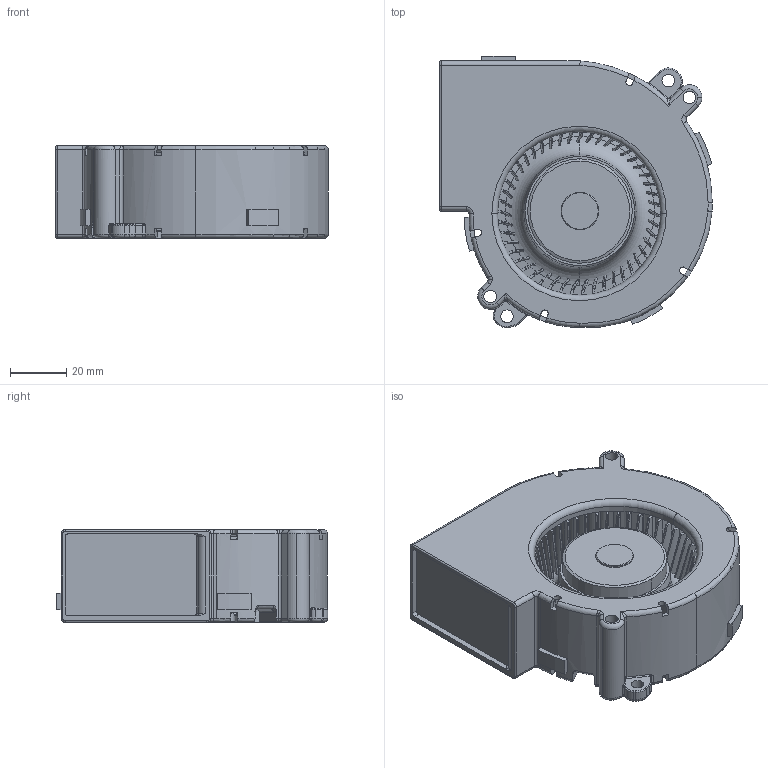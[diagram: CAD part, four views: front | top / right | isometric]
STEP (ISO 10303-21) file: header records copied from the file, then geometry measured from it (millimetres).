
FILE_DESCRIPTION (( 'STEP AP214' ), '1' );
FILE_NAME ('Blower_97x33_9W1BM.STEP', '2019-03-27T02:43:17', ( '' ), ( '' ), 'SwSTEP 2.0', 'SolidWorks 2017', '' );
FILE_SCHEMA (( 'AUTOMOTIVE_DESIGN' ));
Length unit declared in the file: millimetre
Products named in the file (1): Blower_97x33_9W1BM
Bounding box: 97.19 x 96.79 x 33 mm (x, y, z)
Volume: 94797.3 mm3; surface area: 75713.9 mm2
Topology: 1 solids, 1 shells, 893 faces, 2505 edges, 1599 vertices
Faces by surface type: cylinder 312, bspline 173, plane 160, torus 136, cone 100, sphere 12
Entity records: 35522 total; most frequent: CARTESIAN_POINT 14327, ORIENTED_EDGE 4990, DIRECTION 3924, EDGE_CURVE 2495, AXIS2_PLACEMENT_3D 1683, VERTEX_POINT 1599, CIRCLE 962, B_SPLINE_CURVE_WITH_KNOTS 951
